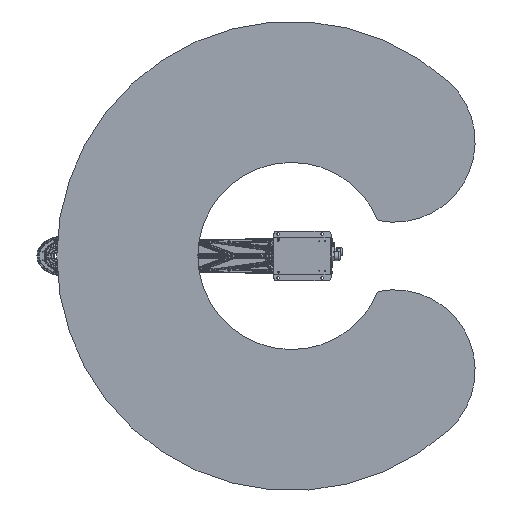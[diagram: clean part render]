
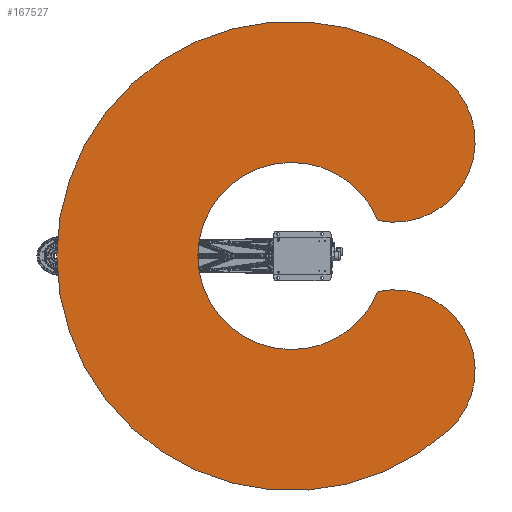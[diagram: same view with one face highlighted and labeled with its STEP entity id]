
A CAD part, front view. The second image highlights one B-rep face of the part: STEP entity #167527.
In plain terms, the highlighted planar face has unit normal (0, -1, 0) as drawn and (0, 1, 0) by its records, which use the part's own axes.
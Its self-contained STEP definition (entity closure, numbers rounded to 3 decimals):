
#1806 = CIRCLE ( 'NONE', #51830, 319. ) ;
#4600 = CARTESIAN_POINT ( 'NONE',  ( -390.151, 200., 351.294 ) ) ;
#5638 = VERTEX_POINT ( 'NONE', #61896 ) ;
#11521 = CIRCLE ( 'NONE', #103862, 275. ) ;
#17928 = DIRECTION ( 'NONE',  ( 0., 1., 0. ) ) ;
#26897 = CARTESIAN_POINT ( 'NONE',  ( 0., 200., -800. ) ) ;
#31587 = CARTESIAN_POINT ( 'NONE',  ( 120.935, 200., 295.187 ) ) ;
#33032 = DIRECTION ( 'NONE',  ( 0., 0., 1. ) ) ;
#39008 = AXIS2_PLACEMENT_3D ( 'NONE', #150130, #84829, #169782 ) ;
#40016 = CIRCLE ( 'NONE', #133763, 800. ) ;
#40096 = CIRCLE ( 'NONE', #39008, 800. ) ;
#42260 = DIRECTION ( 'NONE',  ( 0., 1., 0. ) ) ;
#47531 = CARTESIAN_POINT ( 'NONE',  ( 0., 200., 0. ) ) ;
#51830 = AXIS2_PLACEMENT_3D ( 'NONE', #77389, #93365, #129009 ) ;
#52434 = CARTESIAN_POINT ( 'NONE',  ( -120.935, 200., 295.187 ) ) ;
#53569 = CARTESIAN_POINT ( 'NONE',  ( 390.151, 200., 351.294 ) ) ;
#56120 = DIRECTION ( 'NONE',  ( 0., 1., 0. ) ) ;
#57202 = VERTEX_POINT ( 'NONE', #205997 ) ;
#58220 = ORIENTED_EDGE ( 'NONE', *, *, #204216, .T. ) ;
#61896 = CARTESIAN_POINT ( 'NONE',  ( -594.516, 200., 535.304 ) ) ;
#77389 = CARTESIAN_POINT ( 'NONE',  ( 0., 200., 0. ) ) ;
#77836 = CARTESIAN_POINT ( 'NONE',  ( 0., 200., 0. ) ) ;
#82467 = DIRECTION ( 'NONE',  ( 0., 0., 1. ) ) ;
#84829 = DIRECTION ( 'NONE',  ( 0., 1., 0. ) ) ;
#88664 = EDGE_CURVE ( 'NONE', #165179, #5638, #40016, .T. ) ;
#90250 = FACE_OUTER_BOUND ( 'NONE', #157535, .T. ) ;
#93365 = DIRECTION ( 'NONE',  ( 0., 1., 0. ) ) ;
#93443 = EDGE_CURVE ( 'NONE', #5638, #114098, #11521, .T. ) ;
#103862 = AXIS2_PLACEMENT_3D ( 'NONE', #4600, #56120, #126746 ) ;
#106837 = DIRECTION ( 'NONE',  ( 0., 0., 1. ) ) ;
#108223 = CARTESIAN_POINT ( 'NONE',  ( 594.516, 200., 535.304 ) ) ;
#110537 = DIRECTION ( 'NONE',  ( 0., 0., 1. ) ) ;
#114098 = VERTEX_POINT ( 'NONE', #52434 ) ;
#126746 = DIRECTION ( 'NONE',  ( 0., 0., 1. ) ) ;
#129009 = DIRECTION ( 'NONE',  ( 0., 0., 1. ) ) ;
#131221 = ORIENTED_EDGE ( 'NONE', *, *, #176708, .F. ) ;
#133763 = AXIS2_PLACEMENT_3D ( 'NONE', #47531, #42260, #82467 ) ;
#137126 = EDGE_CURVE ( 'NONE', #57202, #114098, #183786, .T. ) ;
#140622 = AXIS2_PLACEMENT_3D ( 'NONE', #53569, #159831, #106837 ) ;
#150130 = CARTESIAN_POINT ( 'NONE',  ( 0., 200., 0. ) ) ;
#150578 = ORIENTED_EDGE ( 'NONE', *, *, #137126, .F. ) ;
#155147 = EDGE_CURVE ( 'NONE', #170853, #165179, #40096, .T. ) ;
#157535 = EDGE_LOOP ( 'NONE', ( #131221, #58220, #191087, #197988, #194761, #150578 ) ) ;
#159831 = DIRECTION ( 'NONE',  ( 0., 1., 0. ) ) ;
#165179 = VERTEX_POINT ( 'NONE', #26897 ) ;
#166007 = AXIS2_PLACEMENT_3D ( 'NONE', #77836, #216700, #110537 ) ;
#167527 = ADVANCED_FACE ( 'NONE', ( #90250 ), #190831, .T. ) ;
#169782 = DIRECTION ( 'NONE',  ( 0., 0., 1. ) ) ;
#170853 = VERTEX_POINT ( 'NONE', #108223 ) ;
#173335 = CARTESIAN_POINT ( 'NONE',  ( 0., 200., 0. ) ) ;
#176708 = EDGE_CURVE ( 'NONE', #201127, #57202, #1806, .T. ) ;
#183786 = CIRCLE ( 'NONE', #166007, 319. ) ;
#184543 = AXIS2_PLACEMENT_3D ( 'NONE', #173335, #17928, #33032 ) ;
#190831 = PLANE ( 'NONE',  #184543 ) ;
#191087 = ORIENTED_EDGE ( 'NONE', *, *, #155147, .T. ) ;
#194761 = ORIENTED_EDGE ( 'NONE', *, *, #93443, .T. ) ;
#197988 = ORIENTED_EDGE ( 'NONE', *, *, #88664, .T. ) ;
#201127 = VERTEX_POINT ( 'NONE', #31587 ) ;
#204216 = EDGE_CURVE ( 'NONE', #201127, #170853, #213680, .T. ) ;
#205997 = CARTESIAN_POINT ( 'NONE',  ( 0., 200., -319. ) ) ;
#213680 = CIRCLE ( 'NONE', #140622, 275. ) ;
#216700 = DIRECTION ( 'NONE',  ( 0., 1., 0. ) ) ;
